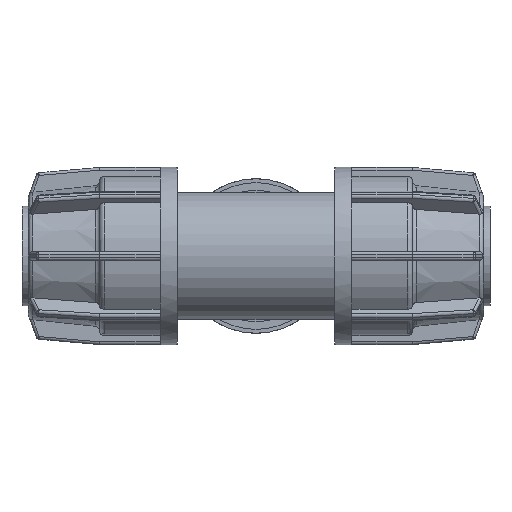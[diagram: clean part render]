
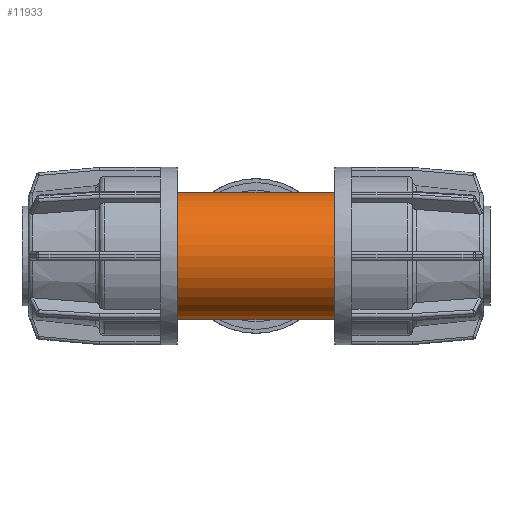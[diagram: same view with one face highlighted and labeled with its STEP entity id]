
A CAD part, front view. The second image highlights one B-rep face of the part: STEP entity #11933.
In plain terms, the highlighted cylindrical face has radius 14 mm (diameter 28 mm), a full revolution.
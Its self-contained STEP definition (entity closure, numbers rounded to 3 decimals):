
#258=B_SPLINE_CURVE_WITH_KNOTS('',3,(#18759,#18760,#18761,#18762,#18763,
#18764,#18765,#18766,#18767,#18768,#18769,#18770,#18771,#18772,#18773,#18774,
#18775,#18776,#18777,#18778,#18779,#18780,#18781,#18782,#18783,#18784,#18785,
#18786,#18787,#18788,#18789,#18790,#18791,#18792,#18793,#18794,#18795,#18796,
#18797,#18798,#18799,#18800,#18801,#18802,#18803,#18804,#18805,#18806,#18807,
#18808),.UNSPECIFIED.,.T.,.F.,(4,2,2,2,2,2,2,2,2,2,2,2,2,2,2,2,2,2,2,2,
2,2,2,2,4),(0.,0.23,0.459,0.919,1.364,
1.586,1.809,2.031,2.254,2.699,
3.158,3.388,3.618,3.847,4.077,
4.536,4.982,5.204,5.427,5.649,
5.872,6.317,6.776,7.006,7.236),
 .UNSPECIFIED.);
#2448=FACE_BOUND('',#4024,.T.);
#2449=FACE_BOUND('',#4025,.T.);
#3215=FACE_OUTER_BOUND('',#4023,.T.);
#4023=EDGE_LOOP('',(#10933));
#4024=EDGE_LOOP('',(#10934));
#4025=EDGE_LOOP('',(#10935));
#4202=CIRCLE('',#12374,14.);
#4421=CIRCLE('',#12853,14.);
#4964=VERTEX_POINT('',#18758);
#4979=VERTEX_POINT('',#18978);
#5326=VERTEX_POINT('',#20964);
#6221=EDGE_CURVE('',#4964,#4964,#258,.T.);
#6238=EDGE_CURVE('',#4979,#4979,#4202,.T.);
#6833=EDGE_CURVE('',#5326,#5326,#4421,.T.);
#10933=ORIENTED_EDGE('',*,*,#6238,.F.);
#10934=ORIENTED_EDGE('',*,*,#6221,.T.);
#10935=ORIENTED_EDGE('',*,*,#6833,.T.);
#11167=CYLINDRICAL_SURFACE('',#13329,14.);
#11933=ADVANCED_FACE('',(#3215,#2448,#2449),#11167,.T.);
#12374=AXIS2_PLACEMENT_3D('',#18979,#14442,#14443);
#12853=AXIS2_PLACEMENT_3D('',#20965,#15640,#15641);
#13329=AXIS2_PLACEMENT_3D('',#22977,#16832,#16833);
#14442=DIRECTION('center_axis',(-1.,0.,0.));
#14443=DIRECTION('ref_axis',(0.,0.,-1.));
#15640=DIRECTION('center_axis',(-1.,0.,0.));
#15641=DIRECTION('ref_axis',(0.,0.,-1.));
#16832=DIRECTION('center_axis',(1.,0.,0.));
#16833=DIRECTION('ref_axis',(0.,1.,0.));
#18758=CARTESIAN_POINT('',(0.,8.4,11.2));
#18759=CARTESIAN_POINT('Ctrl Pts',(0.,8.4,11.2));
#18760=CARTESIAN_POINT('Ctrl Pts',(-0.766,8.4,11.2));
#18761=CARTESIAN_POINT('Ctrl Pts',(-1.525,8.508,11.121));
#18762=CARTESIAN_POINT('Ctrl Pts',(-2.995,8.89,10.818));
#18763=CARTESIAN_POINT('Ctrl Pts',(-3.707,9.162,10.594));
#18764=CARTESIAN_POINT('Ctrl Pts',(-5.734,10.1,9.732));
#18765=CARTESIAN_POINT('Ctrl Pts',(-6.945,10.876,8.894));
#18766=CARTESIAN_POINT('Ctrl Pts',(-8.863,12.192,6.976));
#18767=CARTESIAN_POINT('Ctrl Pts',(-9.718,12.84,5.764));
#18768=CARTESIAN_POINT('Ctrl Pts',(-10.596,13.52,3.705));
#18769=CARTESIAN_POINT('Ctrl Pts',(-10.823,13.7,2.979));
#18770=CARTESIAN_POINT('Ctrl Pts',(-11.125,13.94,1.498));
#18771=CARTESIAN_POINT('Ctrl Pts',(-11.2,14.,0.742));
#18772=CARTESIAN_POINT('Ctrl Pts',(-11.2,14.,-0.742));
#18773=CARTESIAN_POINT('Ctrl Pts',(-11.125,13.94,-1.498));
#18774=CARTESIAN_POINT('Ctrl Pts',(-10.823,13.7,-2.979));
#18775=CARTESIAN_POINT('Ctrl Pts',(-10.596,13.52,-3.705));
#18776=CARTESIAN_POINT('Ctrl Pts',(-9.718,12.84,-5.764));
#18777=CARTESIAN_POINT('Ctrl Pts',(-8.863,12.192,-6.976));
#18778=CARTESIAN_POINT('Ctrl Pts',(-6.945,10.876,-8.894));
#18779=CARTESIAN_POINT('Ctrl Pts',(-5.734,10.1,-9.732));
#18780=CARTESIAN_POINT('Ctrl Pts',(-3.707,9.162,-10.594));
#18781=CARTESIAN_POINT('Ctrl Pts',(-2.995,8.89,-10.818));
#18782=CARTESIAN_POINT('Ctrl Pts',(-1.525,8.508,-11.121));
#18783=CARTESIAN_POINT('Ctrl Pts',(-0.766,8.4,-11.2));
#18784=CARTESIAN_POINT('Ctrl Pts',(0.766,8.4,-11.2));
#18785=CARTESIAN_POINT('Ctrl Pts',(1.525,8.508,-11.121));
#18786=CARTESIAN_POINT('Ctrl Pts',(2.995,8.89,-10.818));
#18787=CARTESIAN_POINT('Ctrl Pts',(3.707,9.162,-10.594));
#18788=CARTESIAN_POINT('Ctrl Pts',(5.734,10.1,-9.732));
#18789=CARTESIAN_POINT('Ctrl Pts',(6.945,10.876,-8.894));
#18790=CARTESIAN_POINT('Ctrl Pts',(8.863,12.192,-6.976));
#18791=CARTESIAN_POINT('Ctrl Pts',(9.718,12.84,-5.764));
#18792=CARTESIAN_POINT('Ctrl Pts',(10.596,13.52,-3.705));
#18793=CARTESIAN_POINT('Ctrl Pts',(10.823,13.7,-2.979));
#18794=CARTESIAN_POINT('Ctrl Pts',(11.125,13.94,-1.498));
#18795=CARTESIAN_POINT('Ctrl Pts',(11.2,14.,-0.742));
#18796=CARTESIAN_POINT('Ctrl Pts',(11.2,14.,0.742));
#18797=CARTESIAN_POINT('Ctrl Pts',(11.125,13.94,1.498));
#18798=CARTESIAN_POINT('Ctrl Pts',(10.823,13.7,2.979));
#18799=CARTESIAN_POINT('Ctrl Pts',(10.596,13.52,3.705));
#18800=CARTESIAN_POINT('Ctrl Pts',(9.718,12.84,5.764));
#18801=CARTESIAN_POINT('Ctrl Pts',(8.863,12.192,6.976));
#18802=CARTESIAN_POINT('Ctrl Pts',(6.945,10.876,8.894));
#18803=CARTESIAN_POINT('Ctrl Pts',(5.734,10.1,9.732));
#18804=CARTESIAN_POINT('Ctrl Pts',(3.707,9.162,10.594));
#18805=CARTESIAN_POINT('Ctrl Pts',(2.995,8.89,10.818));
#18806=CARTESIAN_POINT('Ctrl Pts',(1.525,8.508,11.121));
#18807=CARTESIAN_POINT('Ctrl Pts',(0.766,8.4,11.2));
#18808=CARTESIAN_POINT('Ctrl Pts',(0.,8.4,11.2));
#18978=CARTESIAN_POINT('',(-27.75,0.,14.));
#18979=CARTESIAN_POINT('Origin',(-27.75,0.,0.));
#20964=CARTESIAN_POINT('',(27.75,0.,14.));
#20965=CARTESIAN_POINT('Origin',(27.75,0.,0.));
#22977=CARTESIAN_POINT('Origin',(8.65,0.,0.));
